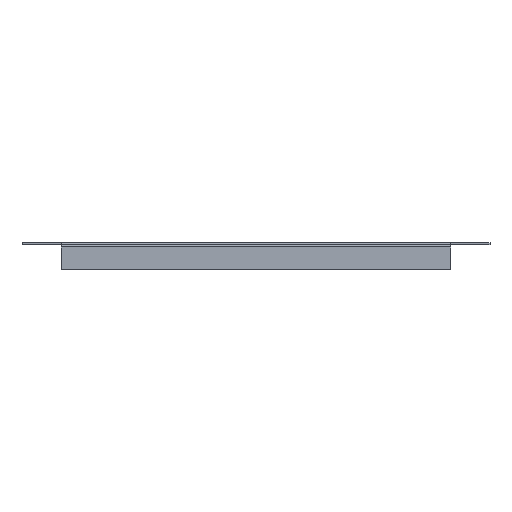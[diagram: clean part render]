
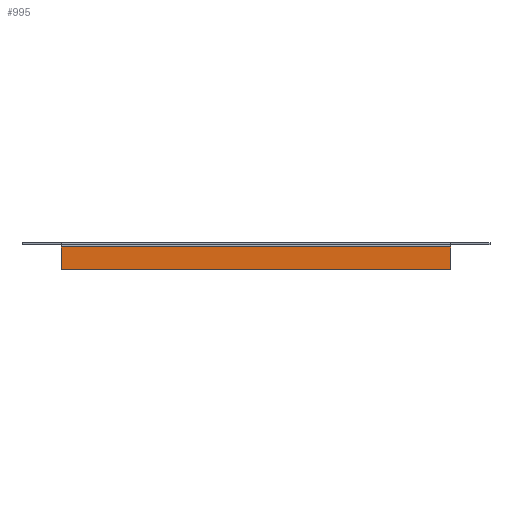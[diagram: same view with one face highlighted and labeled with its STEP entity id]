
A CAD part, front view. The second image highlights one B-rep face of the part: STEP entity #995.
In plain terms, the highlighted planar face has unit normal (0, -1, 0).
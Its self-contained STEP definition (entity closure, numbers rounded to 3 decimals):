
#28 = VERTEX_POINT ( 'NONE', #1240 ) ;
#31 = CARTESIAN_POINT ( 'NONE',  ( 110.2, -299.5, -13.8 ) ) ;
#59 = VECTOR ( 'NONE', #400, 1000. ) ;
#154 = PLANE ( 'NONE',  #798 ) ;
#185 = VECTOR ( 'NONE', #356, 1000. ) ;
#193 = ORIENTED_EDGE ( 'NONE', *, *, #485, .F. ) ;
#225 = ORIENTED_EDGE ( 'NONE', *, *, #1167, .F. ) ;
#334 = LINE ( 'NONE', #807, #59 ) ;
#349 = LINE ( 'NONE', #977, #185 ) ;
#356 = DIRECTION ( 'NONE',  ( 1., 0., 0. ) ) ;
#381 = VERTEX_POINT ( 'NONE', #31 ) ;
#392 = VERTEX_POINT ( 'NONE', #959 ) ;
#397 = CARTESIAN_POINT ( 'NONE',  ( 110.2, -299.5, -1.2 ) ) ;
#400 = DIRECTION ( 'NONE',  ( 0., 0., -1. ) ) ;
#418 = EDGE_CURVE ( 'NONE', #392, #28, #671, .T. ) ;
#472 = FACE_OUTER_BOUND ( 'NONE', #669, .T. ) ;
#485 = EDGE_CURVE ( 'NONE', #28, #561, #349, .T. ) ;
#561 = VERTEX_POINT ( 'NONE', #397 ) ;
#635 = VECTOR ( 'NONE', #771, 1000. ) ;
#666 = VECTOR ( 'NONE', #1053, 1000. ) ;
#669 = EDGE_LOOP ( 'NONE', ( #193, #1310, #1179, #225 ) ) ;
#671 = LINE ( 'NONE', #781, #635 ) ;
#681 = DIRECTION ( 'NONE',  ( 0., 0., 1. ) ) ;
#771 = DIRECTION ( 'NONE',  ( 0., 0., 1. ) ) ;
#781 = CARTESIAN_POINT ( 'NONE',  ( -110.2, -299.5, -13.8 ) ) ;
#798 = AXIS2_PLACEMENT_3D ( 'NONE', #887, #881, #681 ) ;
#807 = CARTESIAN_POINT ( 'NONE',  ( 110.2, -299.5, 0. ) ) ;
#881 = DIRECTION ( 'NONE',  ( 0., 1., 0. ) ) ;
#887 = CARTESIAN_POINT ( 'NONE',  ( 110.2, -299.5, 0. ) ) ;
#929 = LINE ( 'NONE', #1155, #666 ) ;
#959 = CARTESIAN_POINT ( 'NONE',  ( -110.2, -299.5, -13.8 ) ) ;
#977 = CARTESIAN_POINT ( 'NONE',  ( 110.2, -299.5, -1.2 ) ) ;
#995 = ADVANCED_FACE ( 'NONE', ( #472 ), #154, .F. ) ;
#1053 = DIRECTION ( 'NONE',  ( -1., 0., 0. ) ) ;
#1155 = CARTESIAN_POINT ( 'NONE',  ( 110.2, -299.5, -13.8 ) ) ;
#1167 = EDGE_CURVE ( 'NONE', #561, #381, #334, .T. ) ;
#1179 = ORIENTED_EDGE ( 'NONE', *, *, #1317, .F. ) ;
#1240 = CARTESIAN_POINT ( 'NONE',  ( -110.2, -299.5, -1.2 ) ) ;
#1310 = ORIENTED_EDGE ( 'NONE', *, *, #418, .F. ) ;
#1317 = EDGE_CURVE ( 'NONE', #381, #392, #929, .T. ) ;
